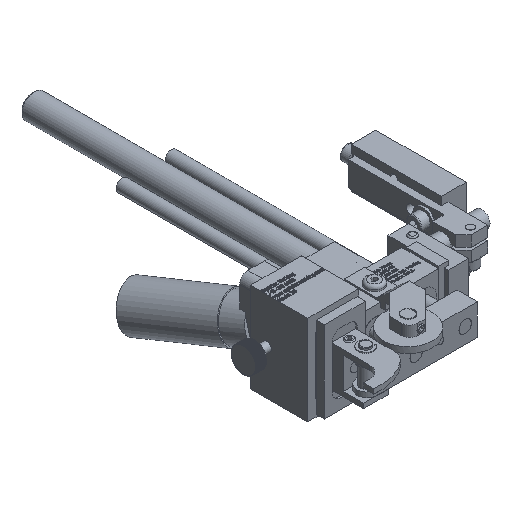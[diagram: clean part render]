
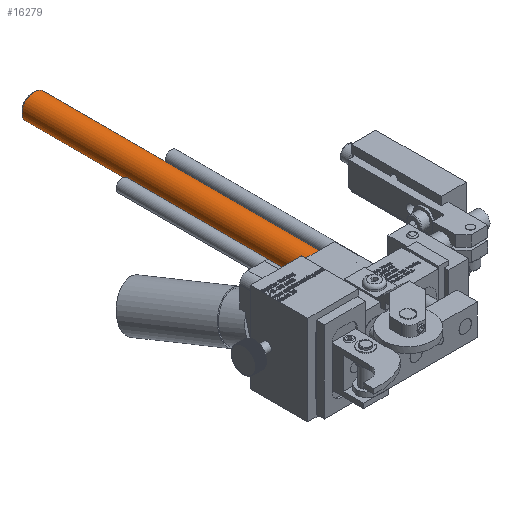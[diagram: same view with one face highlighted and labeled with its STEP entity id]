
A CAD part, isometric view. The second image highlights one B-rep face of the part: STEP entity #16279.
In plain terms, the highlighted cylindrical face has radius 4.763 mm (diameter 9.525 mm), a full revolution.
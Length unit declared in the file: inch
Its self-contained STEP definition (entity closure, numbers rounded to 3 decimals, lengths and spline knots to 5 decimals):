
#16248=CARTESIAN_POINT('',(-0.01557,5.57919,-0.5305));
#16249=VERTEX_POINT('',#16248);
#16250=CARTESIAN_POINT('',(-0.01557,5.57919,-0.343));
#16251=DIRECTION('',(0.0,1.0,0.0));
#16252=DIRECTION('',(0.0,0.0,1.0));
#16253=AXIS2_PLACEMENT_3D('',#16250,#16251,#16252);
#16254=CIRCLE('',#16253,0.1875);
#16255=EDGE_CURVE('',#16249,#16249,#16254,.T.);
#16260=CARTESIAN_POINT('',(-0.01557,1.23419,-0.343));
#16261=DIRECTION('',(0.,1.0,0.));
#16262=DIRECTION('',(0.0,0.0,1.0));
#16263=AXIS2_PLACEMENT_3D('',#16260,#16261,#16262);
#16264=CYLINDRICAL_SURFACE('',#16263,0.1875);
#16265=CARTESIAN_POINT('',(-0.01557,1.23419,-0.5305));
#16266=VERTEX_POINT('',#16265);
#16267=CARTESIAN_POINT('',(-0.01557,1.23419,-0.343));
#16268=DIRECTION('',(0.0,-1.0,0.0));
#16269=DIRECTION('',(0.0,0.0,1.0));
#16270=AXIS2_PLACEMENT_3D('',#16267,#16268,#16269);
#16271=CIRCLE('',#16270,0.1875);
#16272=EDGE_CURVE('',#16266,#16266,#16271,.T.);
#16273=ORIENTED_EDGE('',*,*,#16272,.F.);
#16274=EDGE_LOOP('',(#16273));
#16275=FACE_OUTER_BOUND('',#16274,.T.);
#16276=ORIENTED_EDGE('',*,*,#16255,.F.);
#16277=EDGE_LOOP('',(#16276));
#16278=FACE_BOUND('',#16277,.T.);
#16279=ADVANCED_FACE('',(#16275,#16278),#16264,.T.);
